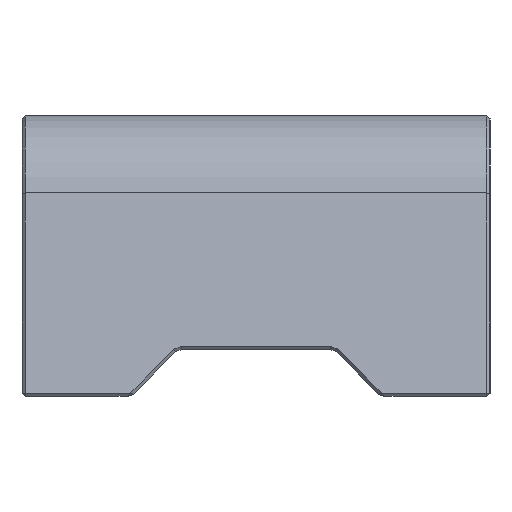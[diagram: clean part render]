
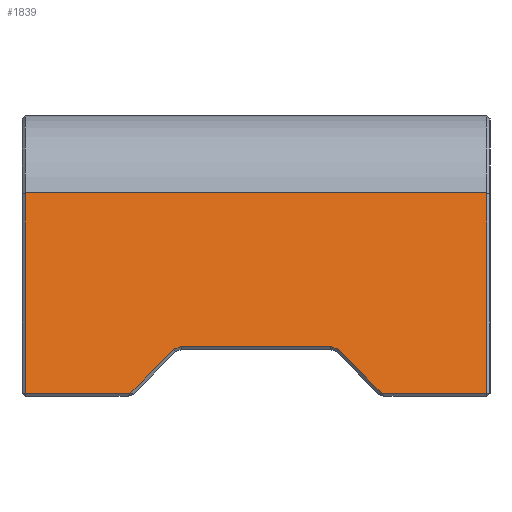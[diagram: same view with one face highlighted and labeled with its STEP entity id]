
A CAD part, left-side view. The second image highlights one B-rep face of the part: STEP entity #1839.
In plain terms, the highlighted planar face has unit normal (-0.985, 0, 0.174).
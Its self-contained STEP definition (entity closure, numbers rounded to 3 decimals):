
#52=B_SPLINE_CURVE_WITH_KNOTS('',3,(#2775,#2776,#2777,#2778),
 .UNSPECIFIED.,.F.,.F.,(4,4),(0.,0.003),.UNSPECIFIED.);
#53=B_SPLINE_CURVE_WITH_KNOTS('',3,(#2782,#2783,#2784,#2785),
 .UNSPECIFIED.,.F.,.F.,(4,4),(0.,0.003),.UNSPECIFIED.);
#80=LINE('',#2766,#256);
#81=LINE('',#2769,#257);
#82=LINE('',#2771,#258);
#83=LINE('',#2773,#259);
#84=LINE('',#2780,#260);
#85=LINE('',#2787,#261);
#86=LINE('',#2789,#262);
#87=LINE('',#2791,#263);
#256=VECTOR('',#2217,1000.);
#257=VECTOR('',#2218,1000.);
#258=VECTOR('',#2219,1000.);
#259=VECTOR('',#2220,1000.);
#260=VECTOR('',#2221,1000.);
#261=VECTOR('',#2222,1000.);
#262=VECTOR('',#2223,1000.);
#263=VECTOR('',#2224,1000.);
#423=PLANE('',#1999);
#533=ORIENTED_EDGE('',*,*,#1029,.T.);
#534=ORIENTED_EDGE('',*,*,#1030,.T.);
#535=ORIENTED_EDGE('',*,*,#1031,.T.);
#536=ORIENTED_EDGE('',*,*,#1032,.T.);
#537=ORIENTED_EDGE('',*,*,#1033,.F.);
#538=ORIENTED_EDGE('',*,*,#1034,.T.);
#539=ORIENTED_EDGE('',*,*,#1035,.F.);
#540=ORIENTED_EDGE('',*,*,#1036,.T.);
#541=ORIENTED_EDGE('',*,*,#1037,.T.);
#542=ORIENTED_EDGE('',*,*,#1038,.T.);
#1029=EDGE_CURVE('',#1277,#1278,#80,.T.);
#1030=EDGE_CURVE('',#1278,#1279,#81,.T.);
#1031=EDGE_CURVE('',#1279,#1280,#82,.T.);
#1032=EDGE_CURVE('',#1280,#1281,#83,.T.);
#1033=EDGE_CURVE('',#1282,#1281,#52,.T.);
#1034=EDGE_CURVE('',#1282,#1283,#84,.T.);
#1035=EDGE_CURVE('',#1284,#1283,#53,.T.);
#1036=EDGE_CURVE('',#1284,#1285,#85,.T.);
#1037=EDGE_CURVE('',#1285,#1286,#86,.T.);
#1038=EDGE_CURVE('',#1286,#1277,#87,.T.);
#1277=VERTEX_POINT('',#2767);
#1278=VERTEX_POINT('',#2768);
#1279=VERTEX_POINT('',#2770);
#1280=VERTEX_POINT('',#2772);
#1281=VERTEX_POINT('',#2774);
#1282=VERTEX_POINT('',#2779);
#1283=VERTEX_POINT('',#2781);
#1284=VERTEX_POINT('',#2786);
#1285=VERTEX_POINT('',#2788);
#1286=VERTEX_POINT('',#2790);
#1476=EDGE_LOOP('',(#533,#534,#535,#536,#537,#538,#539,#540,#541,#542));
#1654=FACE_BOUND('',#1476,.T.);
#1839=ADVANCED_FACE('',(#1654),#423,.T.);
#1999=AXIS2_PLACEMENT_3D('',#2765,#2215,#2216);
#2215=DIRECTION('',(-0.985,0.,0.174));
#2216=DIRECTION('',(0.174,0.,0.985));
#2217=DIRECTION('',(0.,1.,0.));
#2218=DIRECTION('',(-0.174,0.,-0.985));
#2219=DIRECTION('',(0.,-1.,0.));
#2220=DIRECTION('',(0.124,-0.702,0.702));
#2221=DIRECTION('',(0.,-1.,0.));
#2222=DIRECTION('',(-0.124,-0.702,-0.702));
#2223=DIRECTION('',(0.,-1.,0.));
#2224=DIRECTION('',(0.174,0.,0.985));
#2765=CARTESIAN_POINT('',(-180.869,-75.,-40.));
#2766=CARTESIAN_POINT('',(-169.371,-75.,25.209));
#2767=CARTESIAN_POINT('',(-169.371,-74.,25.209));
#2768=CARTESIAN_POINT('',(-169.371,74.,25.209));
#2769=CARTESIAN_POINT('',(-180.869,74.,-40.));
#2770=CARTESIAN_POINT('',(-180.696,74.,-39.015));
#2771=CARTESIAN_POINT('',(-180.696,-75.,-39.015));
#2772=CARTESIAN_POINT('',(-180.696,40.419,-39.015));
#2773=CARTESIAN_POINT('',(-178.103,25.712,-24.309));
#2774=CARTESIAN_POINT('',(-178.212,26.332,-24.929));
#2775=CARTESIAN_POINT('',(-178.051,24.,-24.015));
#2776=CARTESIAN_POINT('',(-178.105,24.777,-24.32));
#2777=CARTESIAN_POINT('',(-178.158,25.555,-24.624));
#2778=CARTESIAN_POINT('',(-178.212,26.332,-24.929));
#2779=CARTESIAN_POINT('',(-178.051,24.,-24.015));
#2780=CARTESIAN_POINT('',(-178.051,-25.,-24.015));
#2781=CARTESIAN_POINT('',(-178.051,-24.,-24.015));
#2782=CARTESIAN_POINT('',(-178.212,-26.332,-24.929));
#2783=CARTESIAN_POINT('',(-178.158,-25.555,-24.624));
#2784=CARTESIAN_POINT('',(-178.105,-24.777,-24.32));
#2785=CARTESIAN_POINT('',(-178.051,-24.,-24.015));
#2786=CARTESIAN_POINT('',(-178.212,-26.332,-24.929));
#2787=CARTESIAN_POINT('',(-180.748,-40.712,-39.309));
#2788=CARTESIAN_POINT('',(-180.696,-40.419,-39.015));
#2789=CARTESIAN_POINT('',(-180.696,-75.,-39.015));
#2790=CARTESIAN_POINT('',(-180.696,-74.,-39.015));
#2791=CARTESIAN_POINT('',(-169.371,-74.,25.209));
